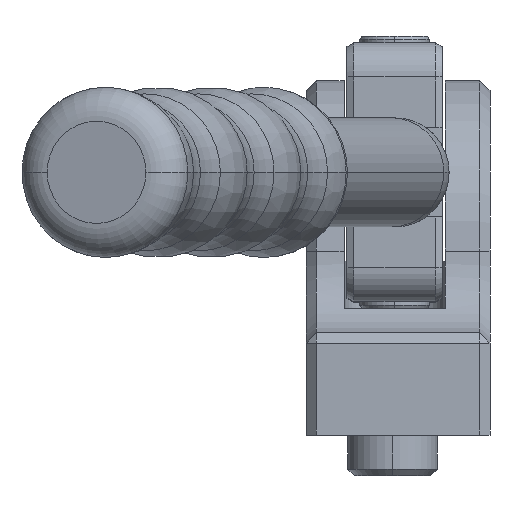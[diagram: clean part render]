
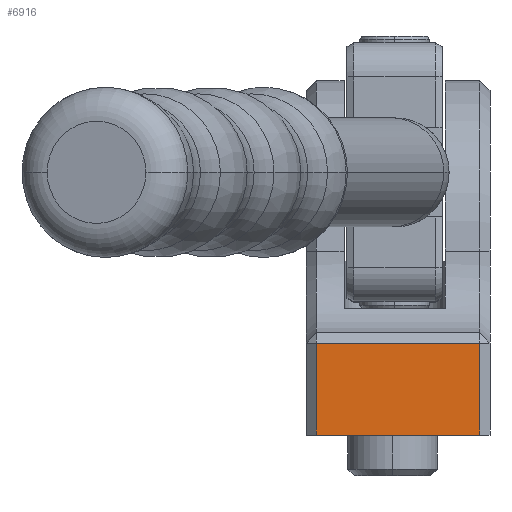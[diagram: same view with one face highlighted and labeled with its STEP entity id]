
A CAD part, left-side view. The second image highlights one B-rep face of the part: STEP entity #6916.
In plain terms, the highlighted planar face has unit normal (-1, 0, 0).
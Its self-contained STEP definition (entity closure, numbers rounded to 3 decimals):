
#14 = DIRECTION ( 'NONE',  ( 0., 0., 1. ) ) ;
#240 = VERTEX_POINT ( 'NONE', #1006 ) ;
#547 = CARTESIAN_POINT ( 'NONE',  ( -62.5, -12.5, -28.5 ) ) ;
#643 = CARTESIAN_POINT ( 'NONE',  ( -62.5, -12.5, -27. ) ) ;
#959 = EDGE_LOOP ( 'NONE', ( #8656, #8216, #8158, #7943 ) ) ;
#1006 = CARTESIAN_POINT ( 'NONE',  ( -62.5, -12.5, -42. ) ) ;
#1697 = DIRECTION ( 'NONE',  ( 0., 0., 1. ) ) ;
#1785 = DIRECTION ( 'NONE',  ( -1., 0., 0. ) ) ;
#1804 = CARTESIAN_POINT ( 'NONE',  ( -62.5, -14., -27. ) ) ;
#2271 = PLANE ( 'NONE',  #7764 ) ;
#2754 = CARTESIAN_POINT ( 'NONE',  ( -62.5, -14., -28.5 ) ) ;
#3219 = LINE ( 'NONE', #9159, #3312 ) ;
#3238 = VECTOR ( 'NONE', #7461, 1000. ) ;
#3280 = VECTOR ( 'NONE', #14, 1000. ) ;
#3288 = LINE ( 'NONE', #2754, #3238 ) ;
#3304 = LINE ( 'NONE', #643, #3280 ) ;
#3312 = VECTOR ( 'NONE', #4229, 1000. ) ;
#3321 = LINE ( 'NONE', #4207, #3412 ) ;
#3412 = VECTOR ( 'NONE', #5254, 1000. ) ;
#3529 = EDGE_CURVE ( 'NONE', #240, #9130, #3321, .T. ) ;
#3546 = EDGE_CURVE ( 'NONE', #240, #6994, #3304, .T. ) ;
#3547 = EDGE_CURVE ( 'NONE', #6994, #7460, #3288, .T. ) ;
#3565 = EDGE_CURVE ( 'NONE', #7460, #9130, #3219, .T. ) ;
#4207 = CARTESIAN_POINT ( 'NONE',  ( -62.5, -14., -42. ) ) ;
#4229 = DIRECTION ( 'NONE',  ( 0., 0., -1. ) ) ;
#4709 = CARTESIAN_POINT ( 'NONE',  ( -62.5, 11.5, -28.5 ) ) ;
#5254 = DIRECTION ( 'NONE',  ( 0., 1., 0. ) ) ;
#6356 = FACE_OUTER_BOUND ( 'NONE', #959, .T. ) ;
#6916 = ADVANCED_FACE ( 'NONE', ( #6356 ), #2271, .T. ) ;
#6994 = VERTEX_POINT ( 'NONE', #547 ) ;
#7460 = VERTEX_POINT ( 'NONE', #4709 ) ;
#7461 = DIRECTION ( 'NONE',  ( 0., 1., 0. ) ) ;
#7764 = AXIS2_PLACEMENT_3D ( 'NONE', #1804, #1785, #1697 ) ;
#7943 = ORIENTED_EDGE ( 'NONE', *, *, #3565, .T. ) ;
#8158 = ORIENTED_EDGE ( 'NONE', *, *, #3547, .T. ) ;
#8216 = ORIENTED_EDGE ( 'NONE', *, *, #3546, .T. ) ;
#8656 = ORIENTED_EDGE ( 'NONE', *, *, #3529, .F. ) ;
#9005 = CARTESIAN_POINT ( 'NONE',  ( -62.5, 11.5, -42. ) ) ;
#9130 = VERTEX_POINT ( 'NONE', #9005 ) ;
#9159 = CARTESIAN_POINT ( 'NONE',  ( -62.5, 11.5, -27. ) ) ;
